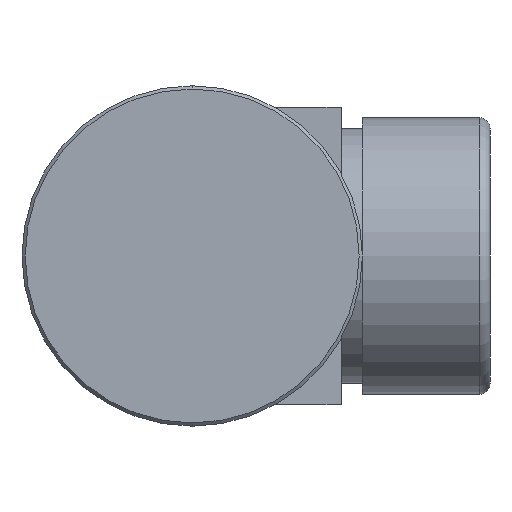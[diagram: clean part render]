
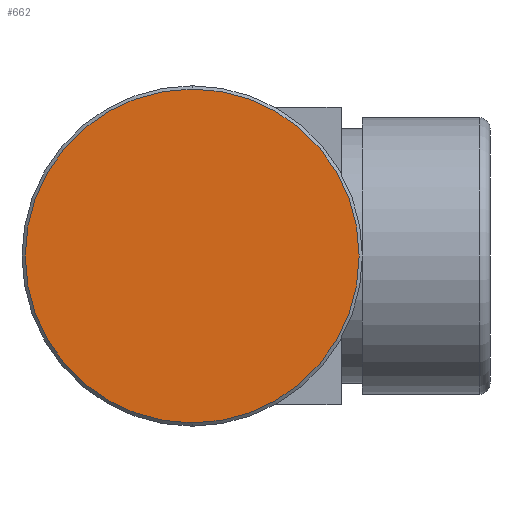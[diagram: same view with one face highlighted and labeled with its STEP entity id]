
A CAD part, left-side view. The second image highlights one B-rep face of the part: STEP entity #662.
In plain terms, the highlighted planar face has unit normal (-1, 0, 0).
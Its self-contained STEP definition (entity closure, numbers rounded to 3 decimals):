
#100 = DIRECTION ( 'NONE',  ( 0., 0., 1. ) ) ;
#120 = EDGE_CURVE ( 'NONE', #1213, #439, #1048, .T. ) ;
#164 = DIRECTION ( 'NONE',  ( -1., 0., 0. ) ) ;
#165 = PLANE ( 'NONE',  #378 ) ;
#172 = CIRCLE ( 'NONE', #956, 15.7 ) ;
#269 = AXIS2_PLACEMENT_3D ( 'NONE', #278, #164, #1059 ) ;
#278 = CARTESIAN_POINT ( 'NONE',  ( 0., 0., 0. ) ) ;
#291 = EDGE_CURVE ( 'NONE', #439, #1213, #172, .T. ) ;
#378 = AXIS2_PLACEMENT_3D ( 'NONE', #1379, #1270, #1278 ) ;
#389 = FACE_OUTER_BOUND ( 'NONE', #1161, .T. ) ;
#439 = VERTEX_POINT ( 'NONE', #900 ) ;
#659 = CARTESIAN_POINT ( 'NONE',  ( 0., 0., -15.7 ) ) ;
#662 = ADVANCED_FACE ( 'NONE', ( #389 ), #165, .F. ) ;
#777 = DIRECTION ( 'NONE',  ( -1., 0., 0. ) ) ;
#900 = CARTESIAN_POINT ( 'NONE',  ( 0., 0., 15.7 ) ) ;
#956 = AXIS2_PLACEMENT_3D ( 'NONE', #1091, #777, #100 ) ;
#1048 = CIRCLE ( 'NONE', #269, 15.7 ) ;
#1051 = ORIENTED_EDGE ( 'NONE', *, *, #120, .T. ) ;
#1059 = DIRECTION ( 'NONE',  ( 0., 0., 1. ) ) ;
#1063 = ORIENTED_EDGE ( 'NONE', *, *, #291, .T. ) ;
#1091 = CARTESIAN_POINT ( 'NONE',  ( 0., 0., 0. ) ) ;
#1161 = EDGE_LOOP ( 'NONE', ( #1051, #1063 ) ) ;
#1213 = VERTEX_POINT ( 'NONE', #659 ) ;
#1270 = DIRECTION ( 'NONE',  ( 1., 0., 0. ) ) ;
#1278 = DIRECTION ( 'NONE',  ( 0., 0., -1. ) ) ;
#1379 = CARTESIAN_POINT ( 'NONE',  ( 0., 0., 0. ) ) ;
